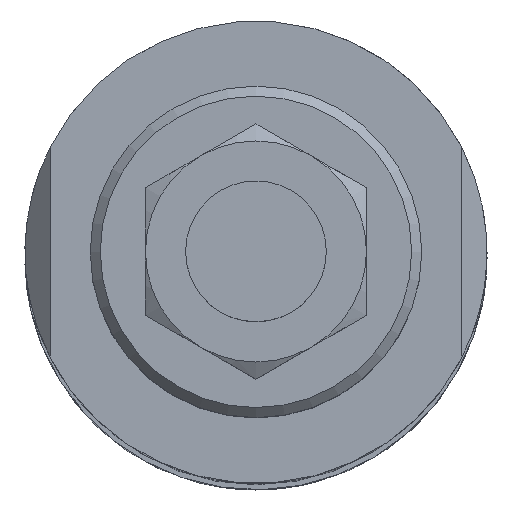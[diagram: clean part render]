
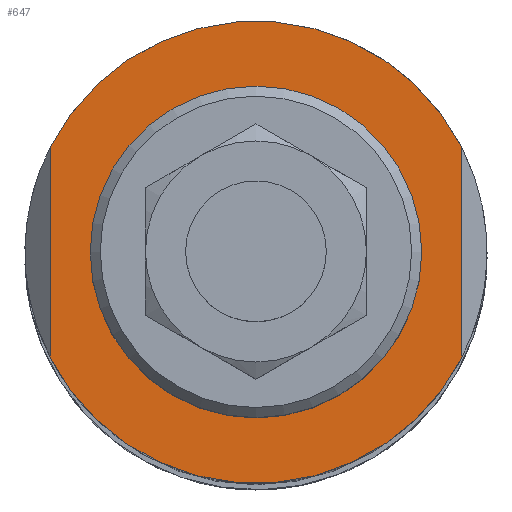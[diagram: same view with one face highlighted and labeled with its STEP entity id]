
A CAD part, top view. The second image highlights one B-rep face of the part: STEP entity #647.
In plain terms, the highlighted planar face has unit normal (0, 0, 1).
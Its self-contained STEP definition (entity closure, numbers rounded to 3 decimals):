
#531=CARTESIAN_POINT('',(-20.5,10.428,413.0));
#532=VERTEX_POINT('',#531);
#540=CARTESIAN_POINT('',(-20.5,-10.428,413.0));
#541=VERTEX_POINT('',#540);
#548=CARTESIAN_POINT('',(-20.5,10.428,413.0));
#549=DIRECTION('',(0.0,-1.0,0.0));
#550=VECTOR('',#549,20.857);
#551=LINE('',#548,#550);
#552=EDGE_CURVE('',#532,#541,#551,.T.);
#587=CARTESIAN_POINT('',(20.5,-10.428,413.0));
#588=VERTEX_POINT('',#587);
#596=CARTESIAN_POINT('',(20.5,10.428,413.0));
#597=VERTEX_POINT('',#596);
#604=CARTESIAN_POINT('',(20.5,-10.428,413.0));
#605=DIRECTION('',(0.0,1.0,0.0));
#606=VECTOR('',#605,20.857);
#607=LINE('',#604,#606);
#608=EDGE_CURVE('',#588,#597,#607,.T.);
#613=CARTESIAN_POINT('',(0.0,0.0,413.0));
#614=DIRECTION('',(0.0,0.0,-1.0));
#615=DIRECTION('',(-1.0,0.0,0.0));
#616=AXIS2_PLACEMENT_3D('',#613,#614,#615);
#617=PLANE('',#616);
#618=ORIENTED_EDGE('',*,*,#552,.T.);
#619=CARTESIAN_POINT('',(0.0,0.0,413.0));
#620=DIRECTION('',(0.0,0.0,-1.0));
#621=DIRECTION('',(-1.0,0.0,0.0));
#622=AXIS2_PLACEMENT_3D('',#619,#620,#621);
#623=CIRCLE('',#622,23.);
#624=EDGE_CURVE('',#588,#541,#623,.T.);
#625=ORIENTED_EDGE('',*,*,#624,.F.);
#626=ORIENTED_EDGE('',*,*,#608,.T.);
#627=CARTESIAN_POINT('',(0.0,0.0,413.0));
#628=DIRECTION('',(0.0,0.0,-1.0));
#629=DIRECTION('',(-1.0,0.0,0.0));
#630=AXIS2_PLACEMENT_3D('',#627,#628,#629);
#631=CIRCLE('',#630,23.);
#632=EDGE_CURVE('',#532,#597,#631,.T.);
#633=ORIENTED_EDGE('',*,*,#632,.F.);
#634=EDGE_LOOP('',(#618,#625,#626,#633));
#635=FACE_OUTER_BOUND('',#634,.T.);
#636=CARTESIAN_POINT('',(16.5,0.,413.0));
#637=VERTEX_POINT('',#636);
#638=CARTESIAN_POINT('',(0.0,0.0,413.0));
#639=DIRECTION('',(0.0,0.0,-1.0));
#640=DIRECTION('',(-1.0,0.0,0.0));
#641=AXIS2_PLACEMENT_3D('',#638,#639,#640);
#642=CIRCLE('',#641,16.5);
#643=EDGE_CURVE('',#637,#637,#642,.T.);
#644=ORIENTED_EDGE('',*,*,#643,.T.);
#645=EDGE_LOOP('',(#644));
#646=FACE_BOUND('',#645,.T.);
#647=ADVANCED_FACE('',(#635,#646),#617,.F.);
